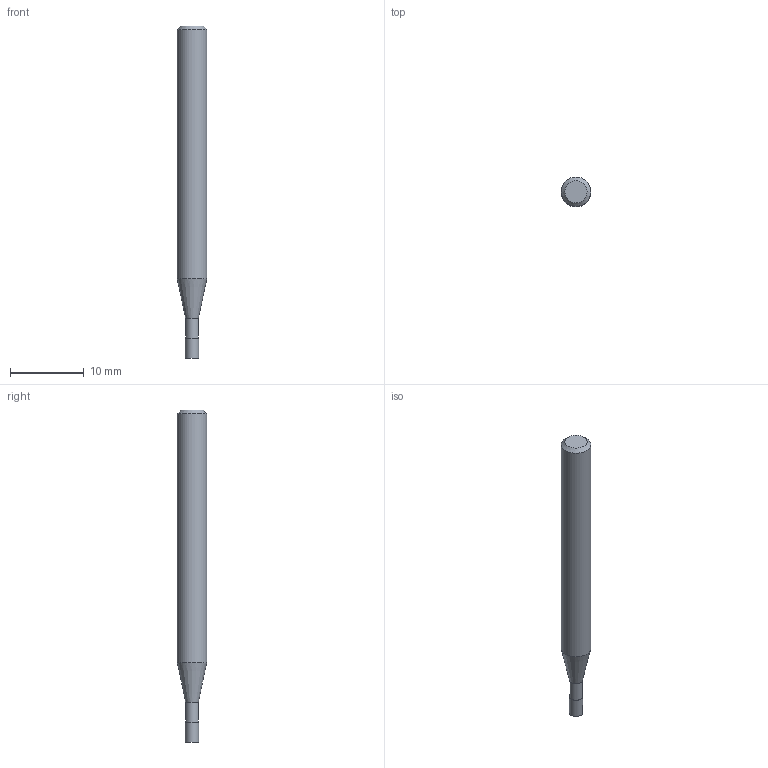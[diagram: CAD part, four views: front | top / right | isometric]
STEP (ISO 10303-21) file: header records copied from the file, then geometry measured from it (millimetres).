
FILE_DESCRIPTION((''),'2;1');
FILE_NAME('C:\Users\nsx150\AppData\Local\Temp\Mastercam 2021\EUJSUNXURU\TEMP.step','2021-04-22T10:27:40',(''),(''),'STEP Write','Mastercam 2021 ... CNC Software, Inc.','');
FILE_SCHEMA(('AUTOMOTIVE_DESIGN'));
Length unit declared in the file: millimetre
Products named in the file (1): None
Bounding box: 4 x 4 x 45 mm (x, y, z)
Volume: 478.8 mm3; surface area: 525.9 mm2
Topology: 2 solids, 2 shells, 9 faces, 12 edges, 7 vertices
Faces by surface type: plane 4, cylinder 3, cone 2
Full cylindrical faces by diameter (mm): 1.74 x1, 1.8 x1, 4 x1
Entity records: 211 total; most frequent: DIRECTION 36, CARTESIAN_POINT 25, AXIS2_PLACEMENT_3D 18, ORIENTED_EDGE 14, EDGE_LOOP 14, STYLED_ITEM 12, ADVANCED_FACE 9, FACE_BOUND 8
